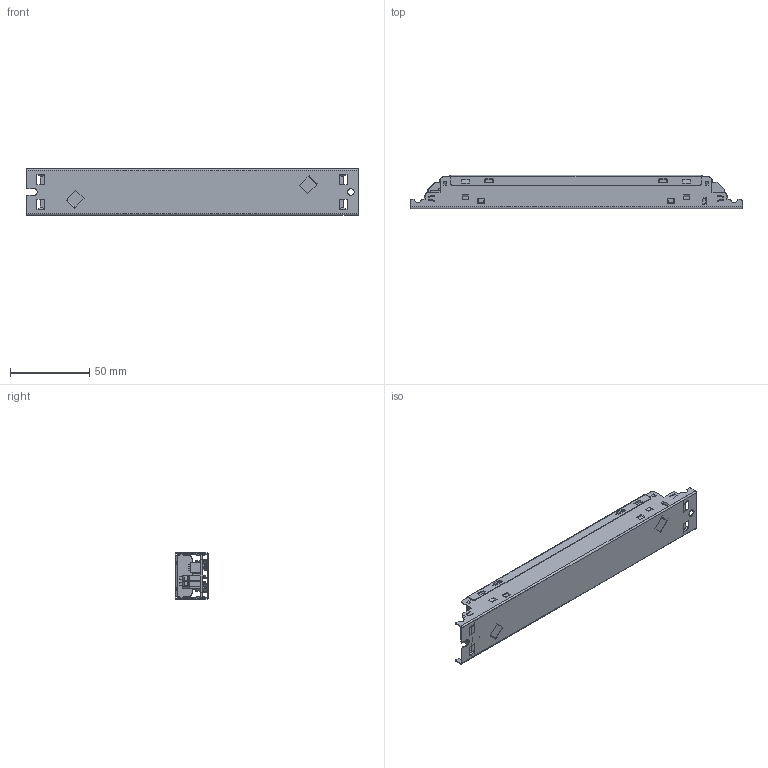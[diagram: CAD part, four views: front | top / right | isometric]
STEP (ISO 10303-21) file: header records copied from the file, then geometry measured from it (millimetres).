
FILE_DESCRIPTION(('Creo Elements/Direct Modeling STEP Export'),'2;1');
FILE_NAME('M107.stp','2025-03-25T14:21:17',(''),(''),'Creo Elements/Direct Modeling STEP processor for AP214 (Solid Model)','Creo Elements/Direct Modeling 20.7 06-Apr-2024 (C) Parametric Technology GmbH','');
FILE_SCHEMA(('AUTOMOTIVE_DESIGN { 1 0 10303 214 1 1 1 1 }'));
Length unit declared in the file: millimetre
Products named in the file (5): PCB; casing top; foil; casing bottom; M107
Assembly tree (4 placements, depth 2):
  M107
    casing bottom
    foil
    casing top
    PCB
Bounding box: 210 x 21 x 30 mm (x, y, z)
Volume: 22158.7 mm3; surface area: 88248.6 mm2
Topology: 4 solids, 5 shells, 1382 faces, 3552 edges, 2172 vertices
Faces by surface type: plane 879, cylinder 335, sphere 72, torus 40, bspline 40, cone 16
Entity records: 51586 total; most frequent: CARTESIAN_POINT 9378, ORIENTED_EDGE 7016, DIRECTION 6822, EDGE_CURVE 3504, VECTOR 2678, LINE 2678, VERTEX_POINT 2180, AXIS2_PLACEMENT_3D 2072
